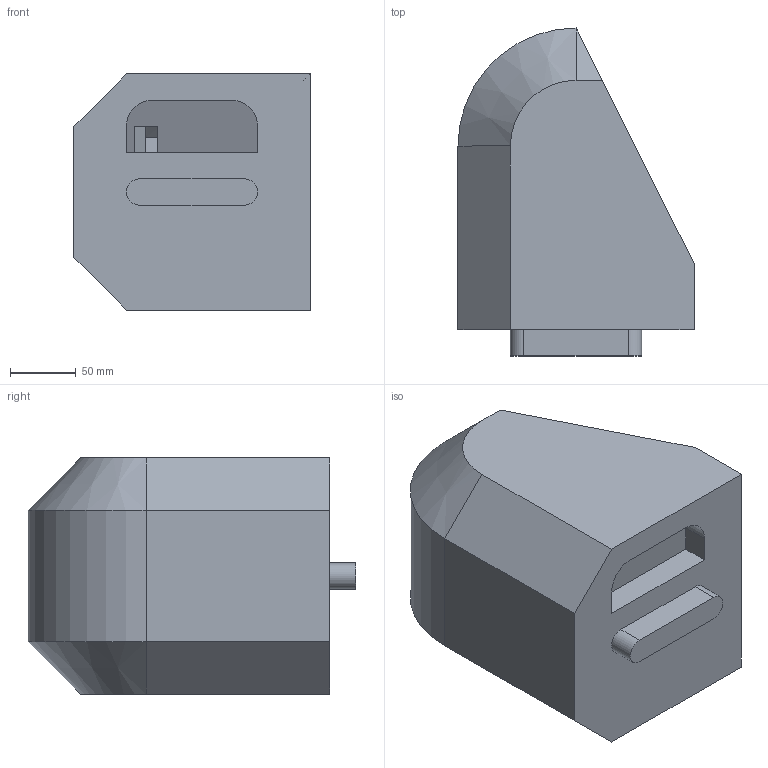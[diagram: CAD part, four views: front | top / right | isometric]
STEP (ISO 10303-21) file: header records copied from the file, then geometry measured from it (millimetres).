
FILE_DESCRIPTION(/* description */ (''),/* implementation_level */ '2;1');
FILE_NAME(/* name */ 'N:\0_Question Bank\Assignment\Inventor\Part 4 - Receipt Disposal.stp',/* time_stamp */ '2023-10-13T10:33:09+01:00',/* author */ ('aphee'),/* organization */ (''),/* preprocessor_version */ 'ST-DEVELOPER v18.1',/* originating_system */ 'Autodesk Inventor 2022',/* authorisation */ '');
FILE_SCHEMA (('AUTOMOTIVE_DESIGN { 1 0 10303 214 3 1 1 }'));
Length unit declared in the file: millimetre
Products named in the file (1): Part4
Bounding box: 180 x 250 x 180 mm (x, y, z)
Volume: 2664962.1 mm3; surface area: 280389.3 mm2
Topology: 1 solids, 1 shells, 47 faces, 119 edges, 76 vertices
Faces by surface type: plane 37, cylinder 6, cone 4
Entity records: 1436 total; most frequent: CARTESIAN_POINT 243, ORIENTED_EDGE 238, DIRECTION 231, EDGE_CURVE 119, LINE 103, VECTOR 103, VERTEX_POINT 76, AXIS2_PLACEMENT_3D 64
